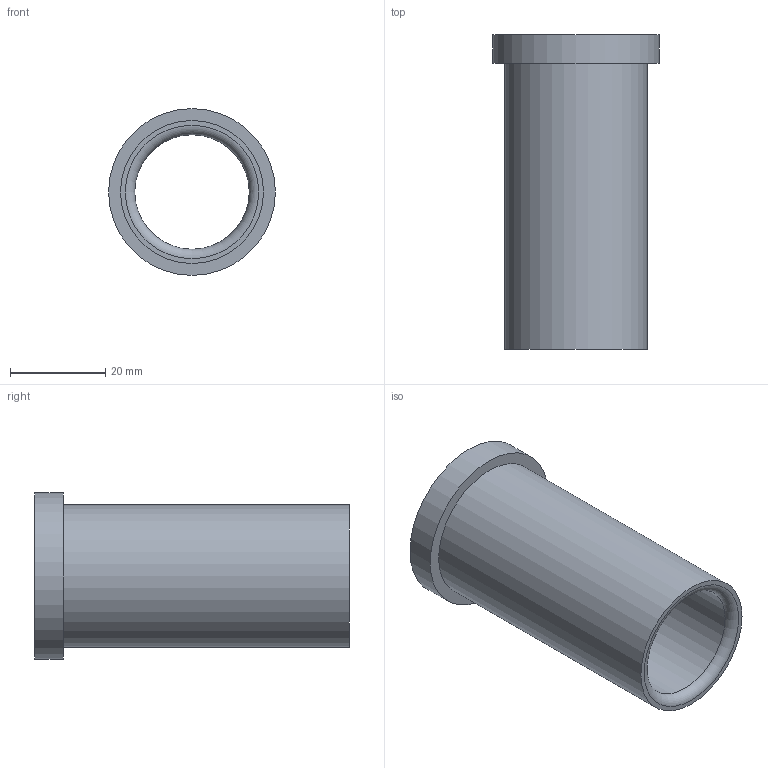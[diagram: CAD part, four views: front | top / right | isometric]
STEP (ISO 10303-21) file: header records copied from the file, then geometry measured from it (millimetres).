
FILE_DESCRIPTION(/* description */ ('STEP AP214'),/* implementation_level */ '2;1');
FILE_NAME(/* name */ '03_12_17938',/* time_stamp */ '2023-06-15T11:35:36+02:00',/* author */ ('License CC BY-ND 4.0'),/* organization */ ('CADENAS'),/* preprocessor_version */ 'ST-DEVELOPER v19.3',/* originating_system */ 'PARTsolutions',/* authorisation */ ' ');
FILE_SCHEMA (('AUTOMOTIVE_DESIGN {1 0 10303 214 3 1 1}'));
Length unit declared in the file: millimetre
Products named in the file (1): VA_Bushing_17938
Bounding box: 35 x 66 x 35 mm (x, y, z)
Volume: 17888.3 mm3; surface area: 12207.7 mm2
Topology: 1 solids, 1 shells, 10 faces, 16 edges, 10 vertices
Faces by surface type: cylinder 4, plane 4, torus 2
Full cylindrical faces by diameter (mm): 24 x1, 24.6 x1, 30 x1, 35 x1
Entity records: 302 total; most frequent: DIRECTION 42, CARTESIAN_POINT 31, AXIS2_PLACEMENT_3D 21, ORIENTED_EDGE 20, EDGE_LOOP 20, FACE_BOUND 20, EDGE_CURVE 10, VERTEX_POINT 10
